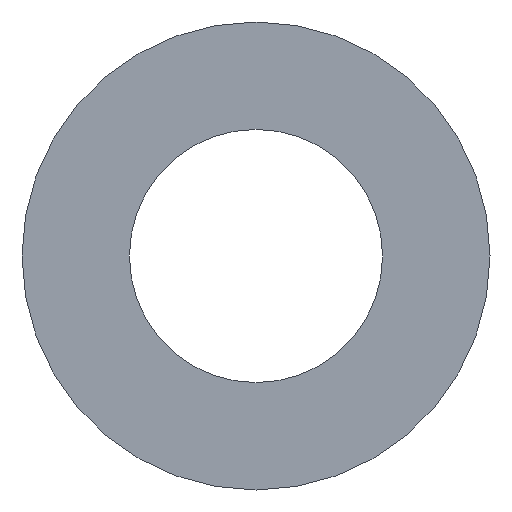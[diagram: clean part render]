
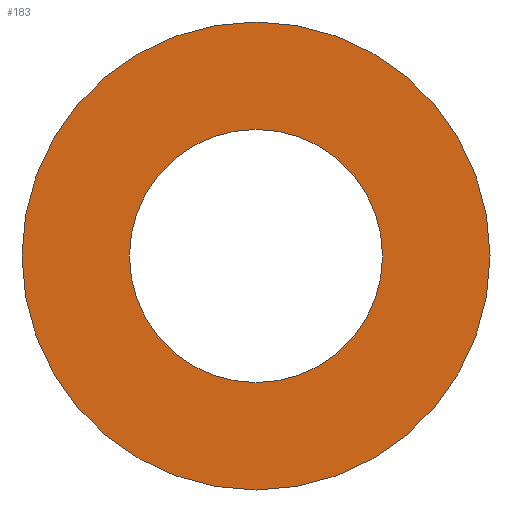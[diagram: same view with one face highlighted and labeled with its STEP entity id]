
A CAD part, left-side view. The second image highlights one B-rep face of the part: STEP entity #183.
In plain terms, the highlighted planar face has unit normal (-1, 0, 0).
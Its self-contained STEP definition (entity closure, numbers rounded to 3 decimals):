
#33=CARTESIAN_POINT('',(0.,61.,0.));
#34=VERTEX_POINT('',#33);
#41=CARTESIAN_POINT('',(0.,0.,0.));
#42=DIRECTION('',(1.,0.,0.));
#43=DIRECTION('',(0.,1.,0.));
#44=AXIS2_PLACEMENT_3D('',#41,#42,#43);
#45=CIRCLE('',#44,61.);
#46=EDGE_CURVE('',#34,#34,#45,.T.);
#148=CARTESIAN_POINT('',(0.,33.,0.));
#149=VERTEX_POINT('',#148);
#156=CARTESIAN_POINT('',(0.,0.,0.));
#157=DIRECTION('',(1.,0.,0.));
#158=DIRECTION('',(0.,1.,0.));
#159=AXIS2_PLACEMENT_3D('',#156,#157,#158);
#160=CIRCLE('',#159,33.);
#161=EDGE_CURVE('',#149,#149,#160,.T.);
#172=ORIENTED_EDGE('',*,*,#46,.F.);
#173=EDGE_LOOP('',(#172));
#174=FACE_OUTER_BOUND('',#173,.T.);
#175=ORIENTED_EDGE('',*,*,#161,.T.);
#176=EDGE_LOOP('',(#175));
#177=FACE_BOUND('',#176,.T.);
#178=CARTESIAN_POINT('',(0.,47.,0.));
#179=DIRECTION('',(-1.,0.,0.));
#180=DIRECTION('',(0.,-1.,0.));
#181=AXIS2_PLACEMENT_3D('',#178,#179,#180);
#182=PLANE('',#181);
#183=ADVANCED_FACE('',(#174,#177),#182,.T.);
